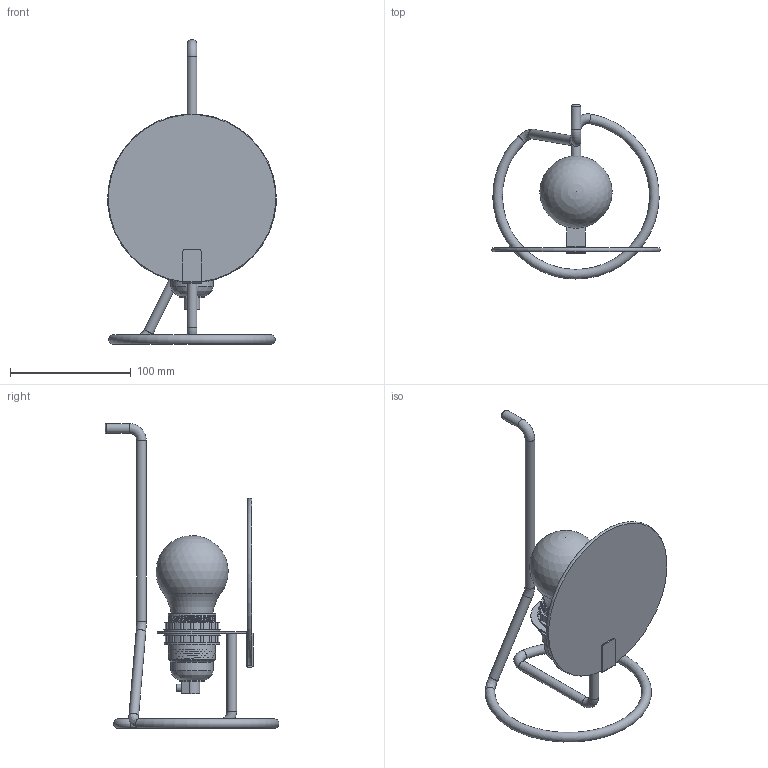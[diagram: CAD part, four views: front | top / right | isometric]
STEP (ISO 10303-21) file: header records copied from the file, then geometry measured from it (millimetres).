
FILE_DESCRIPTION(/* description */ ('Unknown'),/* implementation_level */ '2;1');
FILE_NAME(/* name */ '9680',/* time_stamp */ '2022-03-16T11:43:09+01:00',/* author */ ('Unknown'),/* organization */ ('Unknown'),/* preprocessor_version */ 'ST-DEVELOPER v18.1',/* originating_system */ 'Solid Edge',/* authorisation */ 'Unknown');
FILE_SCHEMA (('AUTOMOTIVE_DESIGN {1 0 10303 214 3 1 1}'));
Length unit declared in the file: millimetre
Products named in the file (15): 9680-9681-9682-9683-9684; 133000176701; 133000176142_1; 151001768142; 101000224523; 220000018000; 005000015000; 005000014000; 005000017000; 060000319352; 060000319352_1; O1729-9 (02); 005000013000; 011000150000; 063000281356
Assembly tree (16 placements, depth 3):
  9680-9681-9682-9683-9684
    133000176701
      133000176142_1
      151001768142
    101000224523
    220000018000
    005000015000  x2
    005000014000
    005000017000
    060000319352
      060000319352_1
      O1729-9 (02)
    005000013000
    011000150000
    063000281356  x2
Bounding box: 139.66 x 144 x 253 mm (x, y, z)
Volume: 260172.5 mm3; surface area: 109694.7 mm2
Topology: 16 solids, 16 shells, 606 faces, 1583 edges, 1030 vertices
Faces by surface type: plane 315, cylinder 223, bspline 27, torus 25, cone 10, sphere 6
Full cylindrical faces by diameter (mm): 1.5 x1, 1.567 x2, 2.25 x2, 2.5 x5, 3 x3, 3.5 x4, 4.917 x1, 6 x1, 7 x1, 8 x5, 10 x1, 10.5 x1, 11 x1, 13 x1, 17 x1, 20 x1, 24.5 x1, 30.5 x1, 35 x1, 35.5 x5, 37 x6, 38 x1, 39 x1, 42 x1, 46 x1, 46.5 x2
Entity records: 24476 total; most frequent: CARTESIAN_POINT 8003, DIRECTION 2721, ORIENTED_EDGE 2682, EDGE_CURVE 1341, AXIS2_PLACEMENT_3D 965, VERTEX_POINT 909, LINE 791, VECTOR 791
